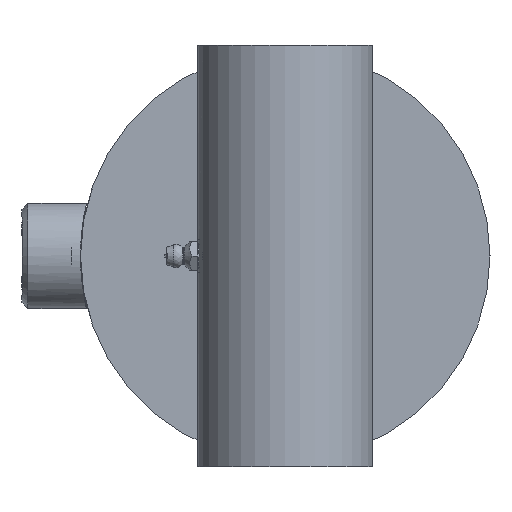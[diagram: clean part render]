
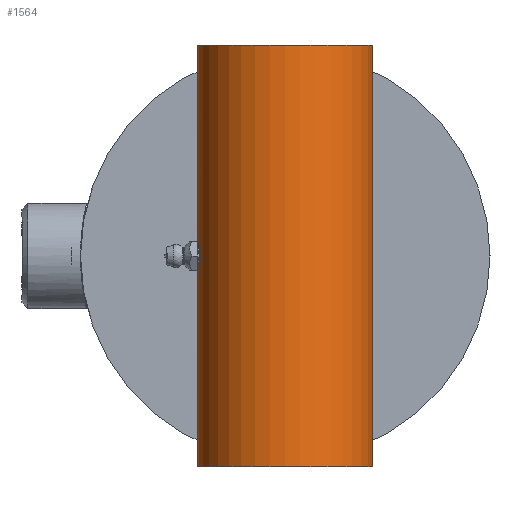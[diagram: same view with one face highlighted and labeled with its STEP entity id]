
A CAD part, left-side view. The second image highlights one B-rep face of the part: STEP entity #1564.
In plain terms, the highlighted cylindrical face has radius 23.812 mm (diameter 47.625 mm), a full revolution.
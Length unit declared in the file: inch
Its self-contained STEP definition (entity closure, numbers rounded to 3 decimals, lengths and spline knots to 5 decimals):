
#1399=CARTESIAN_POINT('',(0.,0.9375,-0.174));
#1400=VERTEX_POINT('',#1399);
#1401=CARTESIAN_POINT('',(0.,0.9375,0.174));
#1402=VERTEX_POINT('',#1401);
#1403=CARTESIAN_POINT('',(0.,0.9375,-0.174));
#1404=CARTESIAN_POINT('',(0.0219,0.9375,-0.174));
#1405=CARTESIAN_POINT('',(0.04523,0.93665,-0.16961));
#1406=CARTESIAN_POINT('',(0.08808,0.9336,-0.15184));
#1407=CARTESIAN_POINT('',(0.10762,0.93143,-0.13846));
#1408=CARTESIAN_POINT('',(0.13846,0.92735,-0.10762));
#1409=CARTESIAN_POINT('',(0.15184,0.92517,-0.08808));
#1410=CARTESIAN_POINT('',(0.16961,0.92207,-0.04523));
#1411=CARTESIAN_POINT('',(0.174,0.92121,-0.0219));
#1412=CARTESIAN_POINT('',(0.174,0.92121,0.0219));
#1413=CARTESIAN_POINT('',(0.16961,0.92207,0.04523));
#1414=CARTESIAN_POINT('',(0.15184,0.92517,0.08808));
#1415=CARTESIAN_POINT('',(0.13846,0.92735,0.10762));
#1416=CARTESIAN_POINT('',(0.10762,0.93143,0.13846));
#1417=CARTESIAN_POINT('',(0.08808,0.9336,0.15184));
#1418=CARTESIAN_POINT('',(0.04523,0.93665,0.16961));
#1419=CARTESIAN_POINT('',(0.0219,0.9375,0.174));
#1420=CARTESIAN_POINT('',(0.0,0.9375,0.174));
#1421=B_SPLINE_CURVE_WITH_KNOTS('',3,(#1403,#1404,#1405,#1406,#1407,#1408,#1409,#1410,#1411,#1412,#1413,#1414,#1415,#1416,#1417,#1418,#1419,#1420),.UNSPECIFIED.,.F.,.U.,(4,2,2,2,2,2,2,2,4),(0.66759,0.83448,1.00138,1.16828,1.33518,1.50208,1.66898,1.83587,2.00277),.UNSPECIFIED.);
#1422=EDGE_CURVE('',#1400,#1402,#1421,.T.);
#1424=CARTESIAN_POINT('',(0.,0.9375,0.174));
#1425=CARTESIAN_POINT('',(-0.0219,0.9375,0.174));
#1426=CARTESIAN_POINT('',(-0.04523,0.93665,0.16961));
#1427=CARTESIAN_POINT('',(-0.08808,0.9336,0.15184));
#1428=CARTESIAN_POINT('',(-0.10762,0.93143,0.13846));
#1429=CARTESIAN_POINT('',(-0.13846,0.92735,0.10762));
#1430=CARTESIAN_POINT('',(-0.15184,0.92517,0.08808));
#1431=CARTESIAN_POINT('',(-0.16961,0.92207,0.04523));
#1432=CARTESIAN_POINT('',(-0.174,0.92121,0.0219));
#1433=CARTESIAN_POINT('',(-0.174,0.92121,0.0));
#1434=CARTESIAN_POINT('',(-0.174,0.92121,-0.0219));
#1435=CARTESIAN_POINT('',(-0.16961,0.92207,-0.04523));
#1436=CARTESIAN_POINT('',(-0.15184,0.92517,-0.08808));
#1437=CARTESIAN_POINT('',(-0.13846,0.92735,-0.10762));
#1438=CARTESIAN_POINT('',(-0.10762,0.93143,-0.13846));
#1439=CARTESIAN_POINT('',(-0.08808,0.9336,-0.15184));
#1440=CARTESIAN_POINT('',(-0.04523,0.93665,-0.16961));
#1441=CARTESIAN_POINT('',(-0.0219,0.9375,-0.174));
#1442=CARTESIAN_POINT('',(0.0,0.9375,-0.174));
#1443=B_SPLINE_CURVE_WITH_KNOTS('',3,(#1424,#1425,#1426,#1427,#1428,#1429,#1430,#1431,#1432,#1433,#1434,#1435,#1436,#1437,#1438,#1439,#1440,#1441,#1442),.UNSPECIFIED.,.F.,.U.,(4,2,2,2,3,2,2,2,4),(2.00277,2.16966,2.33655,2.50345,2.67036,2.83726,3.00416,3.17105,3.33794),.UNSPECIFIED.);
#1444=EDGE_CURVE('',#1402,#1400,#1443,.T.);
#1526=CARTESIAN_POINT('',(0.9375,0.,-2.25));
#1527=VERTEX_POINT('',#1526);
#1528=CARTESIAN_POINT('',(0.0,0.0,-2.25));
#1529=DIRECTION('',(0.0,0.0,1.0));
#1530=DIRECTION('',(-1.0,0.0,0.0));
#1531=AXIS2_PLACEMENT_3D('',#1528,#1529,#1530);
#1532=CIRCLE('',#1531,0.9375);
#1533=EDGE_CURVE('',#1527,#1527,#1532,.T.);
#1541=CARTESIAN_POINT('',(0.0,0.0,0.0));
#1542=DIRECTION('',(0.0,0.0,1.0));
#1543=DIRECTION('',(-1.0,0.0,0.0));
#1544=AXIS2_PLACEMENT_3D('',#1541,#1542,#1543);
#1545=CYLINDRICAL_SURFACE('',#1544,0.9375);
#1546=ORIENTED_EDGE('',*,*,#1533,.T.);
#1547=EDGE_LOOP('',(#1546));
#1548=FACE_OUTER_BOUND('',#1547,.T.);
#1549=ORIENTED_EDGE('',*,*,#1422,.T.);
#1550=ORIENTED_EDGE('',*,*,#1444,.T.);
#1551=EDGE_LOOP('',(#1549,#1550));
#1552=FACE_BOUND('',#1551,.T.);
#1553=CARTESIAN_POINT('',(0.9375,0.,2.25));
#1554=VERTEX_POINT('',#1553);
#1555=CARTESIAN_POINT('',(0.0,0.0,2.25));
#1556=DIRECTION('',(0.0,0.0,-1.0));
#1557=DIRECTION('',(-1.0,0.0,0.0));
#1558=AXIS2_PLACEMENT_3D('',#1555,#1556,#1557);
#1559=CIRCLE('',#1558,0.9375);
#1560=EDGE_CURVE('',#1554,#1554,#1559,.T.);
#1561=ORIENTED_EDGE('',*,*,#1560,.T.);
#1562=EDGE_LOOP('',(#1561));
#1563=FACE_BOUND('',#1562,.T.);
#1564=ADVANCED_FACE('',(#1548,#1552,#1563),#1545,.T.);
